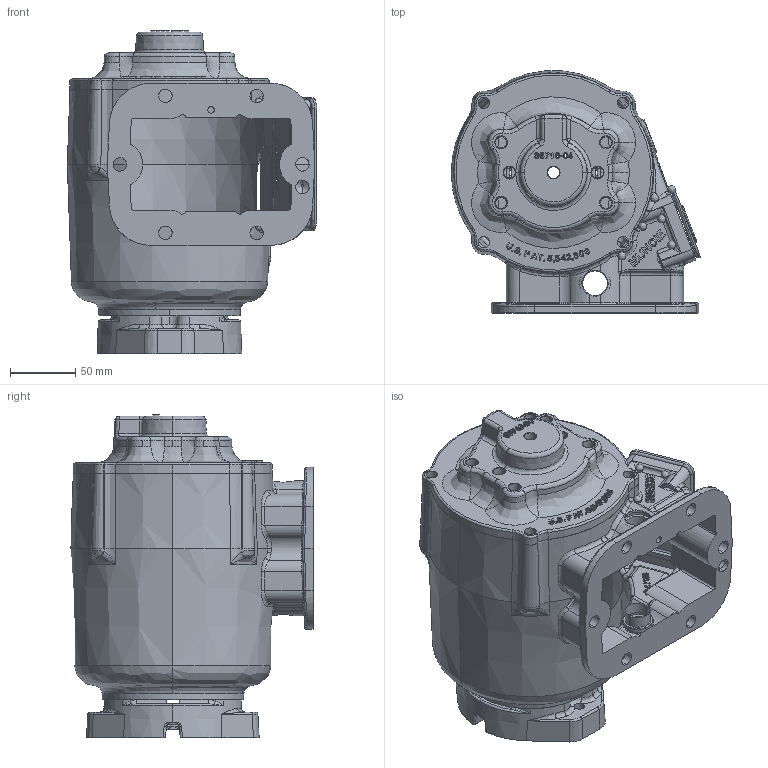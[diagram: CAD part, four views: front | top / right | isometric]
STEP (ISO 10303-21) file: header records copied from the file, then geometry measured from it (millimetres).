
FILE_DESCRIPTION (( 'STEP AP203' ), '1' );
FILE_NAME ('CS6S-XXXXX-X2RX.STEP', '2023-04-05T15:23:44', ( '' ), ( '' ), 'SwSTEP 2.0', 'SolidWorks 2021', '' );
FILE_SCHEMA (( 'CONFIG_CONTROL_DESIGN' ));
Length unit declared in the file: inch
Products named in the file (1): CS6S-XXXXX-X2RX
Bounding box: 190.82 x 185.25 x 247.66 mm (x, y, z)
Surface area: 266073.4 mm2 (no closed solid volume)
Topology: 0 solids, 10 shells, 1353 faces, 4401 edges, 2873 vertices
Faces by surface type: bspline 709, plane 271, cylinder 243, cone 126, torus 4
Entity records: 105530 total; most frequent: CARTESIAN_POINT 74437, ORIENTED_EDGE 7447, EDGE_CURVE 4303, DIRECTION 3897, VERTEX_POINT 2873, B_SPLINE_CURVE_WITH_KNOTS 2101, VECTOR 1553, LINE 1553
